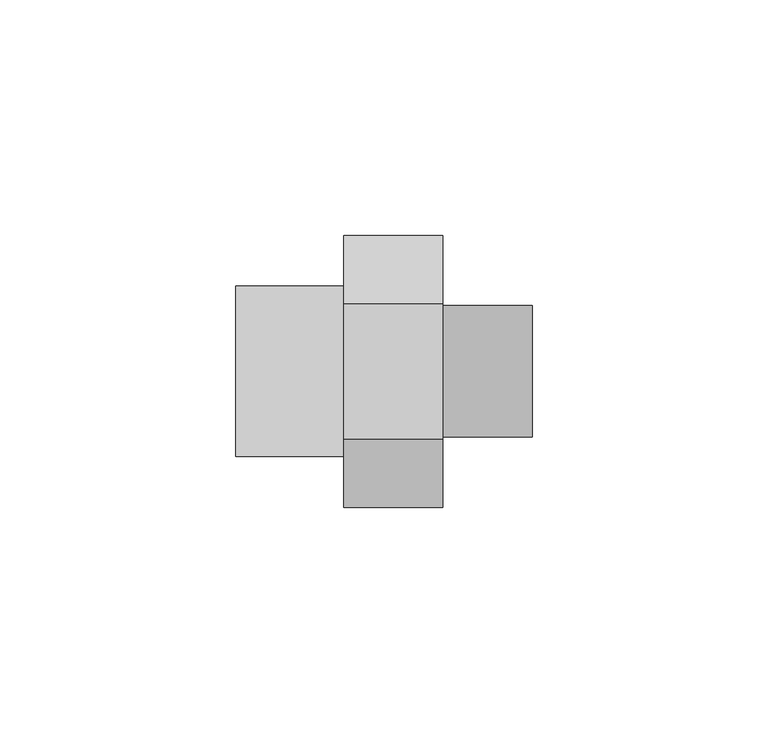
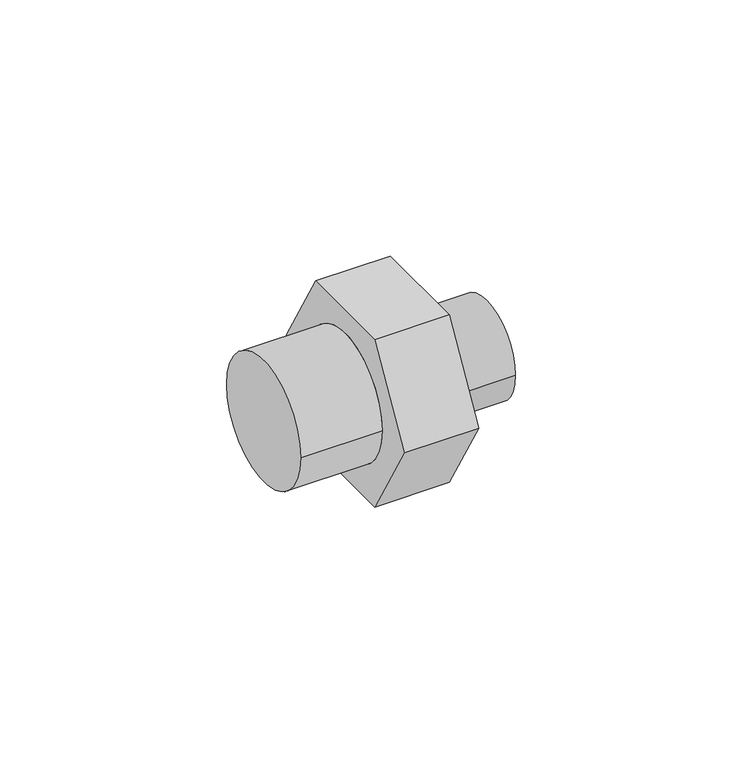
"""IFC4 building model written with IfcOpenShell, lengths in millimetres: pipe fitting geometry, 01011197 : Casquilho Duplo Redução."""

from ifc_helpers import new_model, si_unit, frame, origin, place, context, project, spatial, circle_curve, source, transform, mapped, element, save
from ifc_brep_helpers import plane_surface, cylinder_surface, advanced_brep


def pipe_fitting_e25f841b(model_context):
    return source(origin(), model_context, "Body", "AdvancedBrep", [
        advanced_brep(
        [(44.0, -14.4337567, 25.0), (44.0, -28.8675135, 0.0), (44.0, -14.4337567, -25.0), (44.0, 14.4337567, -25.0), (44.0, 28.8675135, 0.0), (44.0, 14.4337567, 25.0), (44.0, -13.97, 0.0), (44.0, 13.97, 0.0), (23.0, -14.4337567, 25.0), (23.0, 14.4337567, 25.0), (23.0, 28.8675135, 0.0), (23.0, 14.4337567, -25.0), (23.0, -14.4337567, -25.0), (23.0, -28.8675135, 0.0), (23.0, 18.0975, 0.0), (23.0, -18.0975, 0.0), (63.0, -13.97, 0.0), (63.0, 13.97, 0.0), (0.0, 18.0975, 0.0), (0.0, -18.0975, 0.0)],
        [
            (0, 1),
            (1, 2),
            (2, 3),
            (3, 4),
            (4, 5),
            (5, 0),
            (6, 7, circle_curve(frame((44.0, 0.0, 0.0), z_axis=(-1.0, 0.0, 0.0), x_axis=(0.0, 1.0, 0.0)), 13.97)),
            (7, 6, circle_curve(frame((44.0, 0.0, 0.0), z_axis=(-1.0, 0.0, 0.0), x_axis=(0.0, 1.0, 0.0)), 13.97)),
            (8, 9),
            (9, 10),
            (10, 11),
            (11, 12),
            (12, 13),
            (13, 8),
            (14, 15, circle_curve(frame((23.0, 0.0, 0.0), z_axis=(1.0, 0.0, 0.0), x_axis=(0.0, -1.0, 0.0)), 18.0975)),
            (15, 14, circle_curve(frame((23.0, 0.0, 0.0), z_axis=(1.0, 0.0, 0.0), x_axis=(0.0, -1.0, 0.0)), 18.0975)),
            (0, 8),
            (13, 1),
            (12, 2),
            (11, 3),
            (10, 4),
            (9, 5),
            (16, 17, circle_curve(frame((63.0, 0.0, 0.0), z_axis=(1.0, 0.0, 0.0), x_axis=(0.0, 1.0, 0.0)), 13.97)),
            (17, 16, circle_curve(frame((63.0, 0.0, 0.0), z_axis=(1.0, 0.0, 0.0), x_axis=(0.0, 1.0, 0.0)), 13.97)),
            (17, 7),
            (6, 16),
            (18, 19, circle_curve(frame((0.0, 0.0, 0.0), z_axis=(-1.0, 0.0, 0.0), x_axis=(0.0, -1.0, 0.0)), 18.0975)),
            (19, 18, circle_curve(frame((0.0, 0.0, 0.0), z_axis=(-1.0, 0.0, 0.0), x_axis=(0.0, -1.0, 0.0)), 18.0975)),
            (19, 15),
            (14, 18),
        ],
        [
            plane_surface(frame((44.0, -14.4337567, 25.0), z_axis=(1.0, 0.0, 0.0), x_axis=(0.0, -0.5000000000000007, -0.8660254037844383))),
            plane_surface(frame((23.0, -14.4337567, 25.0), z_axis=(-1.0, 0.0, 0.0), x_axis=(0.0, 0.5000000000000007, 0.8660254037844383))),
            plane_surface(frame((44.0, -14.4337567, 25.0), z_axis=(0.0, -0.8660254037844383, 0.5000000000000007), x_axis=(-1.0, 0.0, 0.0))),
            plane_surface(frame((44.0, -28.8675135, 0.0), z_axis=(0.0, -0.866025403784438, -0.500000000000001), x_axis=(-1.0, 0.0, 0.0))),
            plane_surface(frame((44.0, -14.4337567, -25.0), z_axis=(0.0, 0.0, -1.0), x_axis=(-1.0, 0.0, 0.0))),
            plane_surface(frame((44.0, 14.4337567, -25.0), z_axis=(0.0, 0.8660254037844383, -0.5000000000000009), x_axis=(-1.0, 0.0, 0.0))),
            plane_surface(frame((44.0, 28.8675135, 0.0), z_axis=(0.0, 0.866025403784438, 0.500000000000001), x_axis=(-1.0, 0.0, 0.0))),
            plane_surface(frame((44.0, 14.4337567, 25.0), z_axis=(0.0, 0.0, 1.0), x_axis=(-1.0, 0.0, 0.0))),
            plane_surface(frame((63.0, 0.0, 0.0), z_axis=(1.0, 0.0, 0.0), x_axis=(0.0, 0.0, 1.0))),
            cylinder_surface(frame((44.0, 0.0, 0.0), z_axis=(-1.0, 0.0, 0.0), x_axis=(0.0, 1.0, 0.0)), 13.97),
            plane_surface(frame((0.0, 0.0, 0.0), z_axis=(-1.0, 0.0, 0.0), x_axis=(0.0, 0.0, 1.0))),
            cylinder_surface(frame((23.0, 0.0, 0.0), z_axis=(1.0, 0.0, 0.0), x_axis=(0.0, -1.0, 0.0)), 18.0975),
        ],
        [
            (0, [[1, 2, 3, 4, 5, 6], [7, 8]]),
            (1, [[9, 10, 11, 12, 13, 14], [15, 16]]),
            (2, [[-1, 17, -14, 18]]),
            (3, [[-2, -18, -13, 19]]),
            (4, [[-3, -19, -12, 20]]),
            (5, [[-4, -20, -11, 21]]),
            (6, [[-5, -21, -10, 22]]),
            (7, [[-6, -22, -9, -17]]),
            (8, [[23, 24]]),
            (9, [[-24, 25, -7, 26]]),
            (9, [[-23, -26, -8, -25]]),
            (10, [[27, 28]]),
            (11, [[-28, 29, -15, 30]]),
            (11, [[-27, -30, -16, -29]]),
        ],
    ),
    ])


if __name__ == "__main__":
    model = new_model("IFC4")
    model_context = context("Model", 3, world=origin())
    ifc_project = project(units=[si_unit("LENGTHUNIT", "METRE", prefix="MILLI")], contexts=[model_context])
    site = spatial("IfcSite", under=ifc_project)
    building = spatial("IfcBuilding", under=site)
    placement = place(None, origin())
    pipe_fitting_shape = pipe_fitting_e25f841b(model_context)
    element("IfcPipeFitting", 1, ObjectType="01011197 : Casquilho Duplo Redução", at=placement, inside=building, context=model_context, shape_type="MappedRepresentation", body=[
        mapped(pipe_fitting_shape, transform((0.0, 0.0, 0.0), x_axis=(1.0, 0.0, 0.0), y_axis=(0.0, 1.0, 0.0), z_axis=(0.0, 0.0, 1.0))),
    ])
    save(model, "model.ifc")
